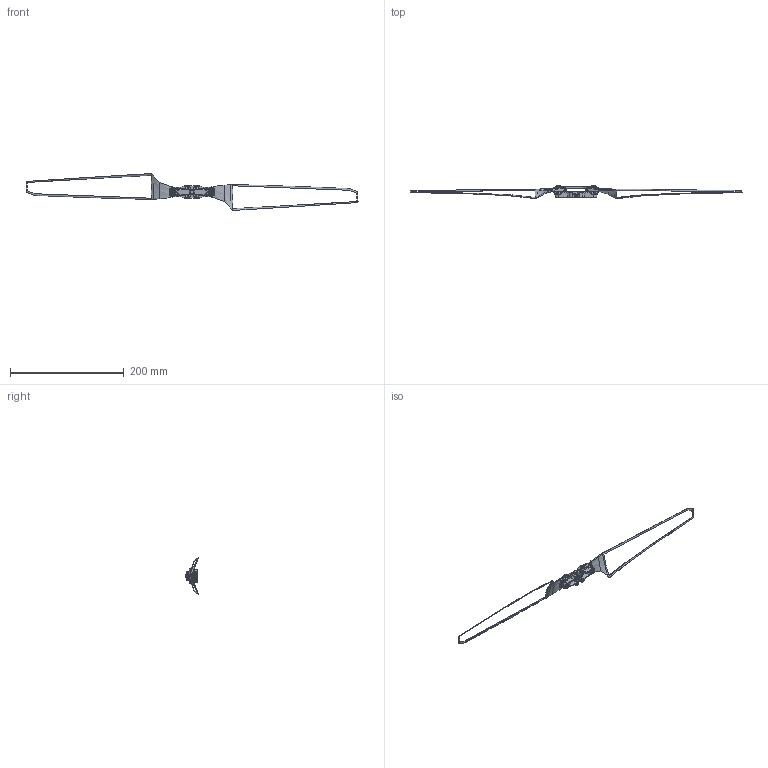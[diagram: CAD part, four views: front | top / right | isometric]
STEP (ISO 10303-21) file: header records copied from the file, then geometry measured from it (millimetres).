
FILE_DESCRIPTION (( 'STEP AP214' ), '1' );
FILE_NAME ('MF23P-懫諾.STEP', '2025-02-11T03:39:52', ( '' ), ( '' ), 'SwSTEP 2.0', 'SolidWorks 2022', '' );
FILE_SCHEMA (( 'AUTOMOTIVE_DESIGN' ));
Length unit declared in the file: millimetre
Products named in the file (7): A23_X2_5bf8686859394e0b677f_X0_-A-B-A; M22-S5-4-05.02322 _X2_65744f53_X0_+0.25_X2_5ea6_X0_+1mm(_X2_67007ec85b9a578b7248_X0_)_X2_539f59cb53c28003_X0_; _X2_629853e0686857ab7247_X0_-B-A; MF23P-镂空; M4_X2_87ba6bcd_X0_; M4-15_X2_87ba4e1d_X0_; A23_X2_5bf8686859394e0a677f_X0_-A-B-A
Assembly tree (9 placements, depth 2):
  MF23P-镂空
    A23_X2_5bf8686859394e0b677f_X0_-A-B-A
    A23_X2_5bf8686859394e0a677f_X0_-A-B-A
    _X2_629853e0686857ab7247_X0_-B-A
    M4-15_X2_87ba4e1d_X0_  x2
    M4_X2_87ba6bcd_X0_  x2
    M22-S5-4-05.02322 _X2_65744f53_X0_+0.25_X2_5ea6_X0_+1mm(_X2_67007ec85b9a578b7248_X0_)_X2_539f59cb53c28003_X0_  x2
Bounding box: 584 x 23.56 x 64.81 mm (x, y, z)
Volume: 20411.6 mm3; surface area: 24604.1 mm2
Topology: 9 solids, 9 shells, 808 faces, 2023 edges, 1260 vertices
Faces by surface type: plane 319, cylinder 270, cone 159, bspline 60
Entity records: 35511 total; most frequent: CARTESIAN_POINT 18913, DIRECTION 3453, ORIENTED_EDGE 3412, EDGE_CURVE 1706, AXIS2_PLACEMENT_3D 1247, VERTEX_POINT 1059, VECTOR 959, LINE 959
